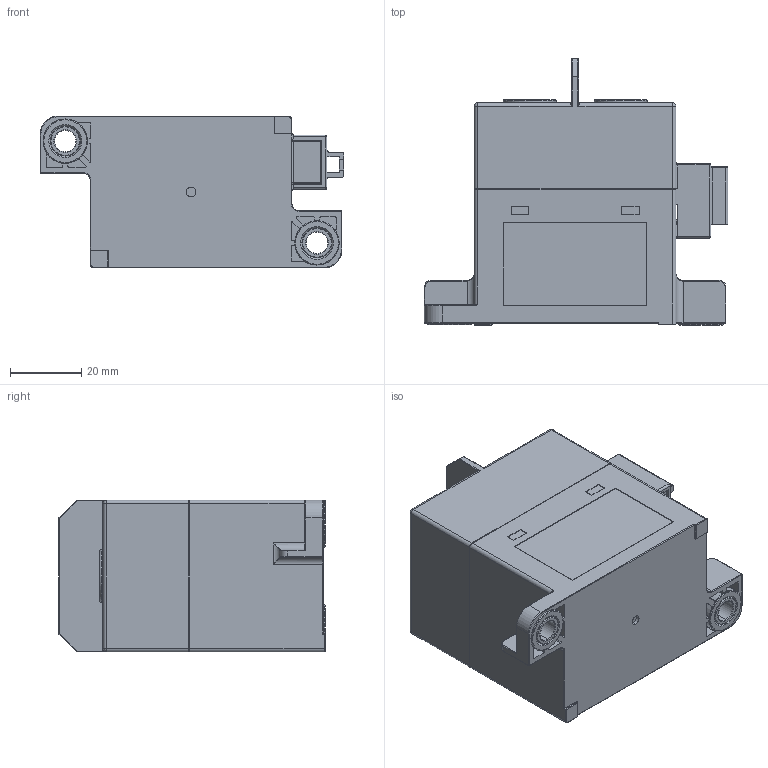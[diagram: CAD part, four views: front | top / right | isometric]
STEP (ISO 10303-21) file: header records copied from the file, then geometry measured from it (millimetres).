
FILE_DESCRIPTION (( 'STEP AP203' ), '1' );
FILE_NAME ('NDZ3AT-250C-L蕾宒.STEP', '2026-03-23T05:09:39', ( '' ), ( '' ), 'SwSTEP 2.0', 'SolidWorks 2018', '' );
FILE_SCHEMA (( 'CONFIG_CONTROL_DESIGN' ));
Length unit declared in the file: millimetre
Products named in the file (1): NDZ3AT-250C-L蕾宒
Bounding box: 85 x 74.5 x 42.5 mm (x, y, z)
Volume: 152899.7 mm3; surface area: 23521.5 mm2
Topology: 3 solids, 3 shells, 570 faces, 1424 edges, 836 vertices
Faces by surface type: cylinder 232, plane 227, torus 66, sphere 23, bspline 14, cone 8
Entity records: 16978 total; most frequent: CARTESIAN_POINT 3371, DIRECTION 2968, ORIENTED_EDGE 2774, EDGE_CURVE 1387, AXIS2_PLACEMENT_3D 1081, VERTEX_POINT 836, LINE 806, VECTOR 806
